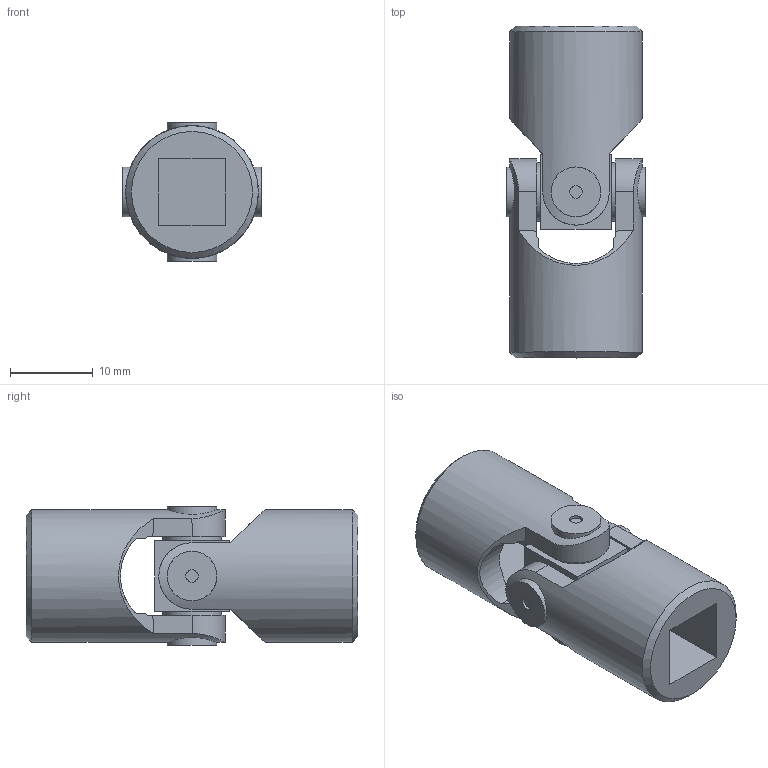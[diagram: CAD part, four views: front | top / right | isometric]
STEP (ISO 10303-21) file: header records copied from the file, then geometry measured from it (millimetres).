
FILE_DESCRIPTION(/* description */ ('EXTENSIBLE TRANSIMISSIONS Series G DIN 808 -2-'),/* implementation_level */ '2;1');
FILE_NAME(/* name */ '\\SRV2016\societa\Stefano\Disegni 3D\Dis. Clienti\0000Catalogo 3D\01Singoli G-GB\SG0S082Q.stp',/* time_stamp */ '2021-11-08T14:15:59+01:00',/* author */ ('acquisti'),/* organization */ ('MARIOFERRI'),/* preprocessor_version */ 'ST-DEVELOPER v15.6',/* originating_system */ 'Autodesk Inventor 2015',/* authorisation */ '');
FILE_SCHEMA (('AUTOMOTIVE_DESIGN { 1 0 10303 214 3 1 1 }'));
Length unit declared in the file: millimetre
Products named in the file (3): 01-02G SFE; 02G MOQ; Assieme1
Assembly tree (3 placements, depth 2):
  Assieme1
    01-02G SFE
    02G MOQ  x2
Bounding box: 16.7 x 40 x 16.7 mm (x, y, z)
Volume: 5156.4 mm3; surface area: 3942.2 mm2
Topology: 3 solids, 3 shells, 90 faces, 234 edges, 160 vertices
Faces by surface type: plane 44, cylinder 26, cone 18, torus 2
Full cylindrical faces by diameter (mm): 1.5 x4, 6 x4, 7 x4, 16 x2
Entity records: 1709 total; most frequent: CARTESIAN_POINT 515, DIRECTION 228, ORIENTED_EDGE 226, EDGE_CURVE 113, AXIS2_PLACEMENT_3D 94, VERTEX_POINT 83, EDGE_LOOP 72, FACE_OUTER_BOUND 52
